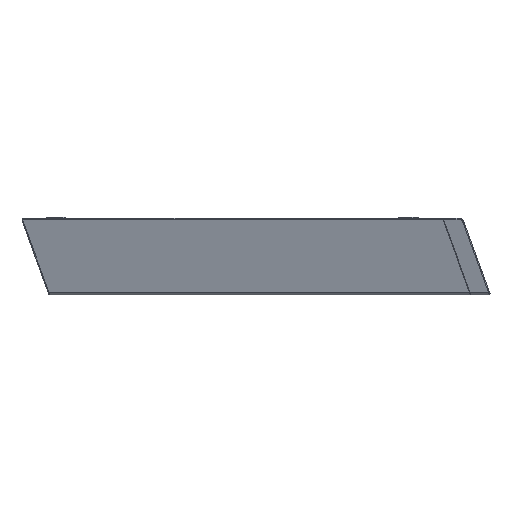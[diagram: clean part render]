
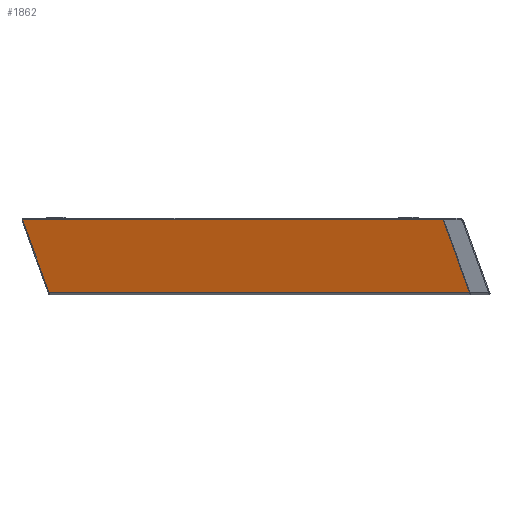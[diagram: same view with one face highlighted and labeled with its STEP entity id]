
A CAD part, front view. The second image highlights one B-rep face of the part: STEP entity #1862.
In plain terms, the highlighted planar face has unit normal (0, -0.964, -0.264).
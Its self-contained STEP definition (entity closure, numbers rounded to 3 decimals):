
#1231=FACE_OUTER_BOUND('',#2813,.T.);
#1862=ADVANCED_FACE('',(#1231),#2235,.T.);
#2235=PLANE('',#10298);
#2813=EDGE_LOOP('',(#5356,#5357,#5358,#5359,#5360));
#3442=B_SPLINE_CURVE_WITH_KNOTS('',3,(#23546,#23547,#23548,#23549,#23550,
#23551,#23552,#23553,#23554,#23555,#23556,#23557,#23558,#23559,#23560,#23561,
#23562,#23563,#23564),.UNSPECIFIED.,.F.,.F.,(4,3,3,3,3,3,4),(0.,0.092,
0.266,0.447,0.631,0.816,
1.),.UNSPECIFIED.);
#3443=B_SPLINE_CURVE_WITH_KNOTS('',3,(#23566,#23567,#23568,#23569,#23570,
#23571,#23572,#23573,#23574,#23575),.UNSPECIFIED.,.F.,.F.,(4,3,3,4),(0.,
0.468,0.734,1.),.UNSPECIFIED.);
#5356=ORIENTED_EDGE('',*,*,#8399,.T.);
#5357=ORIENTED_EDGE('',*,*,#8400,.T.);
#5358=ORIENTED_EDGE('',*,*,#8401,.T.);
#5359=ORIENTED_EDGE('',*,*,#8402,.T.);
#5360=ORIENTED_EDGE('',*,*,#8403,.T.);
#7201=VERTEX_POINT('',#23542);
#7202=VERTEX_POINT('',#23543);
#7203=VERTEX_POINT('',#23545);
#7204=VERTEX_POINT('',#23565);
#7205=VERTEX_POINT('',#23576);
#8399=EDGE_CURVE('',#7201,#7202,#9296,.T.);
#8400=EDGE_CURVE('',#7202,#7203,#9297,.T.);
#8401=EDGE_CURVE('',#7203,#7204,#3442,.T.);
#8402=EDGE_CURVE('',#7204,#7205,#3443,.T.);
#8403=EDGE_CURVE('',#7205,#7201,#9298,.T.);
#9296=LINE('',#23541,#9728);
#9297=LINE('',#23544,#9729);
#9298=LINE('',#23577,#9730);
#9728=VECTOR('',#11815,1.);
#9729=VECTOR('',#11816,1.);
#9730=VECTOR('',#11817,1.);
#10298=AXIS2_PLACEMENT_3D('',#23578,#11818,#11819);
#11815=DIRECTION('',(-0.331,-0.249,0.91));
#11816=DIRECTION('',(-1.,0.,0.));
#11817=DIRECTION('',(1.,0.,0.));
#11818=DIRECTION('',(0.,-0.964,-0.264));
#11819=DIRECTION('',(0.,0.264,-0.964));
#23541=CARTESIAN_POINT('',(-556.193,-10.059,11.815));
#23542=CARTESIAN_POINT('',(-540.053,2.097,-32.529));
#23543=CARTESIAN_POINT('',(-556.212,-10.074,11.868));
#23544=CARTESIAN_POINT('',(-811.496,-10.074,11.868));
#23545=CARTESIAN_POINT('',(-811.496,-10.074,11.868));
#23546=CARTESIAN_POINT('',(-811.496,-10.074,11.868));
#23547=CARTESIAN_POINT('',(-811.527,-10.074,11.868));
#23548=CARTESIAN_POINT('',(-811.557,-10.073,11.865));
#23549=CARTESIAN_POINT('',(-811.587,-10.072,11.86));
#23550=CARTESIAN_POINT('',(-811.643,-10.069,11.849));
#23551=CARTESIAN_POINT('',(-811.697,-10.063,11.829));
#23552=CARTESIAN_POINT('',(-811.746,-10.056,11.801));
#23553=CARTESIAN_POINT('',(-811.796,-10.048,11.772));
#23554=CARTESIAN_POINT('',(-811.842,-10.037,11.734));
#23555=CARTESIAN_POINT('',(-811.879,-10.025,11.69));
#23556=CARTESIAN_POINT('',(-811.916,-10.013,11.645));
#23557=CARTESIAN_POINT('',(-811.946,-9.999,11.593));
#23558=CARTESIAN_POINT('',(-811.966,-9.984,11.539));
#23559=CARTESIAN_POINT('',(-811.986,-9.969,11.484));
#23560=CARTESIAN_POINT('',(-811.996,-9.953,11.426));
#23561=CARTESIAN_POINT('',(-811.997,-9.937,11.368));
#23562=CARTESIAN_POINT('',(-811.997,-9.921,11.31));
#23563=CARTESIAN_POINT('',(-811.986,-9.905,11.251));
#23564=CARTESIAN_POINT('',(-811.966,-9.89,11.197));
#23565=CARTESIAN_POINT('',(-811.966,-9.89,11.197));
#23566=CARTESIAN_POINT('',(-811.966,-9.89,11.197));
#23567=CARTESIAN_POINT('',(-809.483,-8.019,4.373));
#23568=CARTESIAN_POINT('',(-806.999,-6.149,-2.45));
#23569=CARTESIAN_POINT('',(-804.516,-4.278,-9.274));
#23570=CARTESIAN_POINT('',(-803.105,-3.216,-13.15));
#23571=CARTESIAN_POINT('',(-801.694,-2.153,-17.026));
#23572=CARTESIAN_POINT('',(-800.284,-1.091,-20.901));
#23573=CARTESIAN_POINT('',(-798.873,-0.028,-24.777));
#23574=CARTESIAN_POINT('',(-797.462,1.034,-28.653));
#23575=CARTESIAN_POINT('',(-796.052,2.097,-32.529));
#23576=CARTESIAN_POINT('',(-796.052,2.097,-32.529));
#23577=CARTESIAN_POINT('',(-669.8,2.097,-32.529));
#23578=CARTESIAN_POINT('',(-669.8,2.5,-34.));
